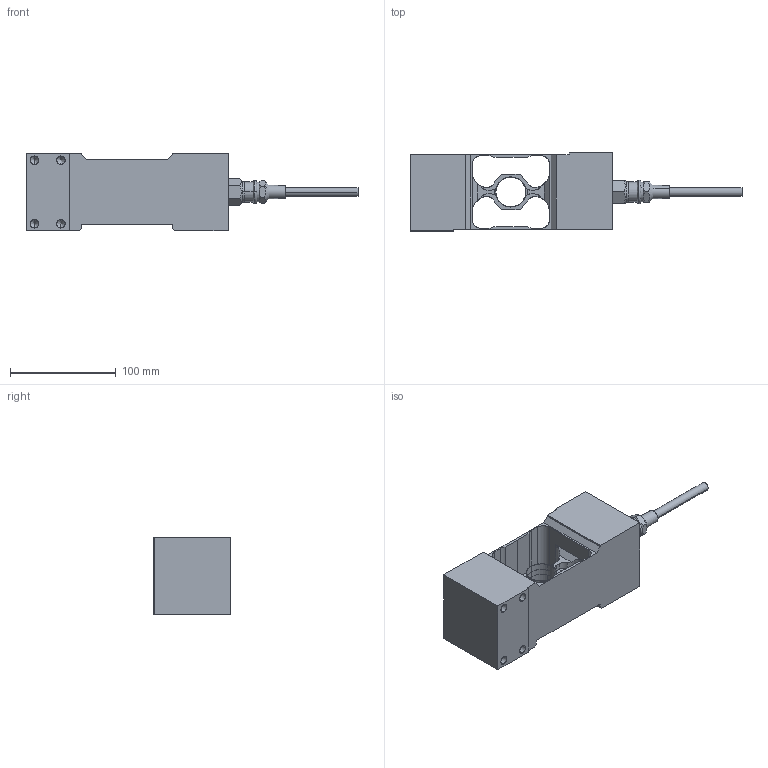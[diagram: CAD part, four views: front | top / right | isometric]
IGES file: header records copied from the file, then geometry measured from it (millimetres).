
Start section: SolidWorks IGES file using analytic representation for surfaces
Global section: file name: C:\Users\nasc01\Desktop\Load_Sensor_HISPB1\Load_Sensor_HISPB1.IGS; native system: SolidWorks 2013; preprocessor: SolidWorks 2013; author: nasc01; date: 141007.153227; units: millimetre
Bounding box: 313.54 x 73.66 x 73.66 mm (x, y, z)
Surface area: 90824.9 mm2 (no closed solid volume)
Topology: 0 solids, 0 shells, 217 faces, 2850 edges, 2834 vertices
Faces by surface type: revolution 126, bspline 91
